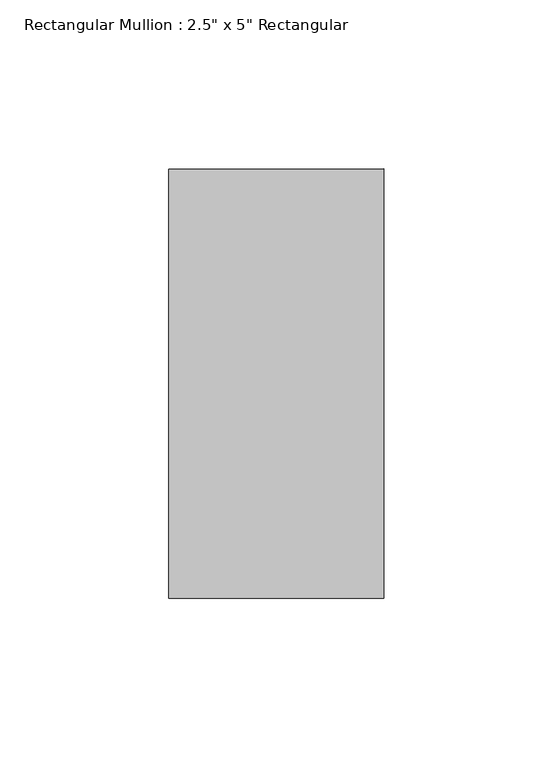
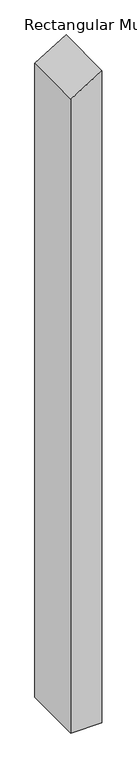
"""IFC4 building model written with IfcOpenShell, lengths in millimetres: member geometry."""

from ifc_helpers import new_model, si_unit, frame, origin, place, context, project, spatial, polyline, outline, extrude, source, transform, mapped, element, save


def member_22632d59(model_context):
    return source(origin(), model_context, "Body", "SweptSolid", [
        extrude(outline(polyline([(0.0, 0.0), (-39.2451583, -63.5), (-1407.181188, -63.5), (-1407.181188, 0.0), (0.0, 0.0)])), frame((0.0, -63.5, 0.0), z_axis=(0.0, 1.0, 0.0), x_axis=(0.0, 0.0, 1.0)), (0.0, 0.0, 1.0), 127.0),
    ])


if __name__ == "__main__":
    model = new_model("IFC4")
    model_context = context("Model", 3, world=origin())
    ifc_project = project(units=[si_unit("LENGTHUNIT", "METRE", prefix="MILLI")], contexts=[model_context])
    site = spatial("IfcSite", under=ifc_project)
    building = spatial("IfcBuilding", under=site)
    placement = place(None, origin())
    member_shape = member_22632d59(model_context)
    element("IfcMember", 1, ObjectType="Rectangular Mullion : 2.5\" x 5\" Rectangular", at=placement, inside=building, context=model_context, shape_type="MappedRepresentation", body=[
        mapped(member_shape, transform((0.0, 0.0, 0.0), x_axis=(1.0, 0.0, 0.0), y_axis=(0.0, 1.0, 0.0), z_axis=(0.0, 0.0, 1.0))),
    ])
    save(model, "model.ifc")
